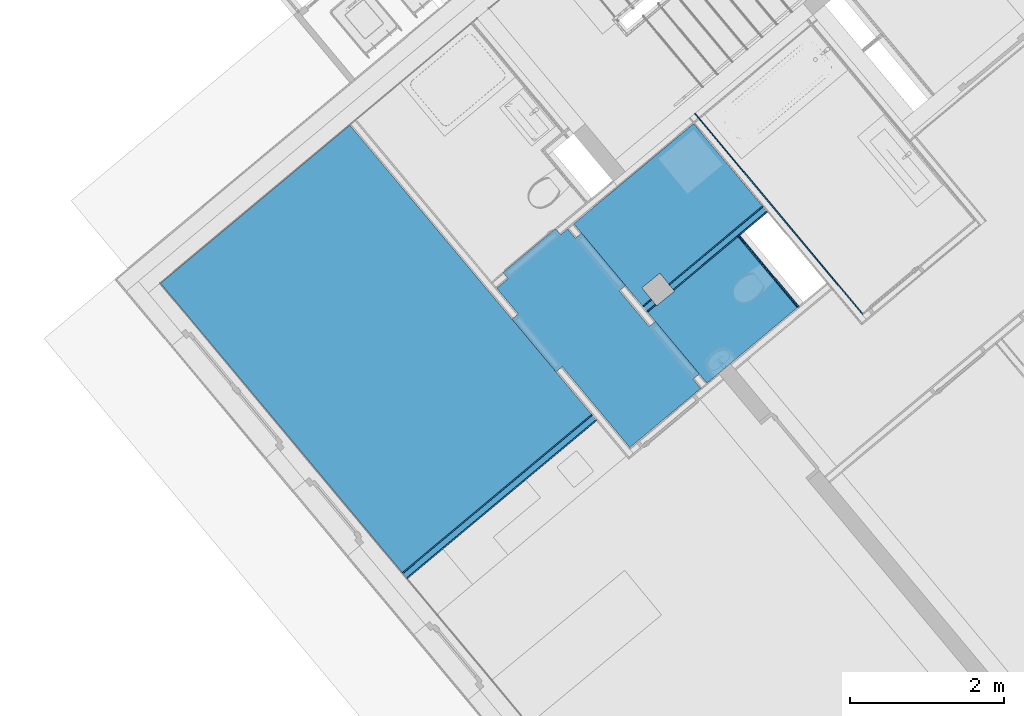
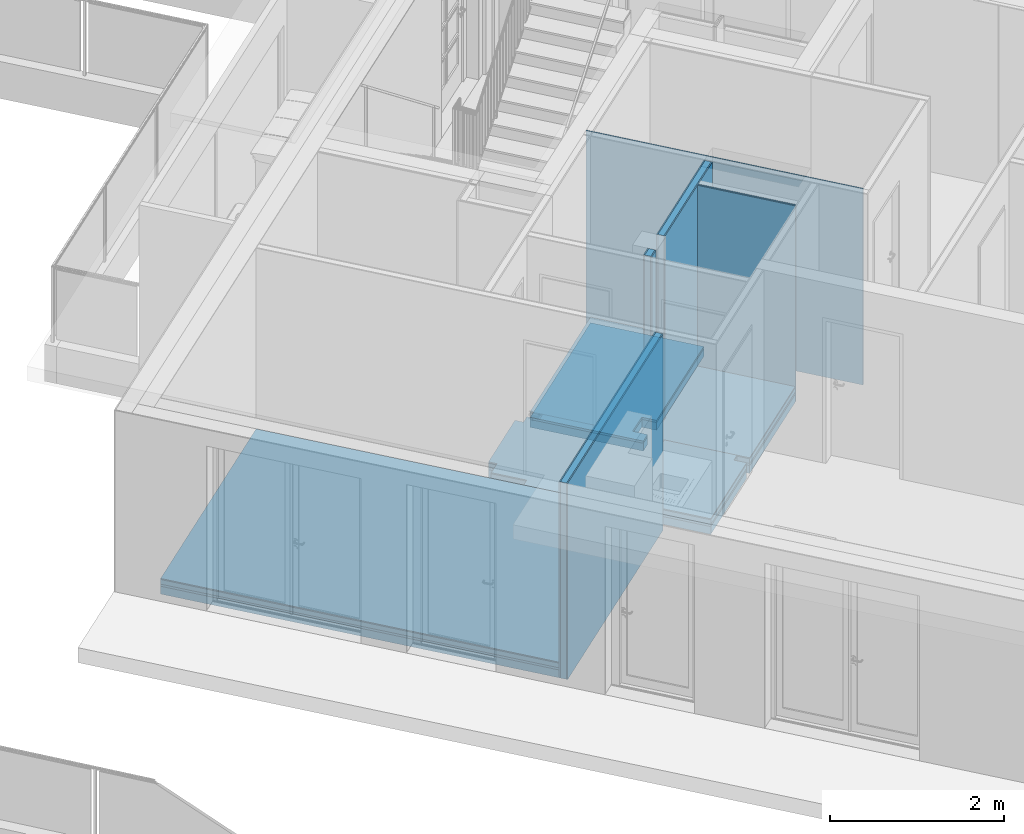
# One storey, part 29 of 67: 25 building element parts, 8 elements without a shape of their own.
"""IFC4 building model written with IfcOpenShell, lengths in metres."""

from ifc_helpers import new_model, entity, si_unit, converted_unit, derived_unit, direction, frame, origin_with_axes, place, context, subcontext, project, spatial, polygons, material, type_object, element, aggregate, save


model = new_model("IFC4")

# Units and contexts
model_context = context("Model", 3, precision=1e-05, world=origin_with_axes(), true_north=direction((0.0, 1.0)))
body_context = subcontext(model_context, "Body", "Model", "MODEL_VIEW")
ifc_project = project(units=[si_unit("LENGTHUNIT", "METRE"), si_unit("AREAUNIT", "SQUARE_METRE"), si_unit("VOLUMEUNIT", "CUBIC_METRE"), converted_unit("PLANEANGLEUNIT", "DEGREE", entity("IfcPlaneAngleMeasure", 0.0174532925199), si_unit("PLANEANGLEUNIT", "RADIAN"), dimensions=[0, 0, 0, 0, 0, 0, 0]), converted_unit("TIMEUNIT", "Year", entity("IfcTimeMeasure", 31556926.0), si_unit("TIMEUNIT", "SECOND"), dimensions=[0, 0, 1, 0, 0, 0, 0]), si_unit("MASSUNIT", "GRAM", prefix="KILO"), si_unit("THERMODYNAMICTEMPERATUREUNIT", "DEGREE_CELSIUS"), si_unit("LUMINOUSINTENSITYUNIT", "LUMEN"), si_unit("ENERGYUNIT", "JOULE", prefix="MEGA"), derived_unit("THERMALCONDUCTANCEUNIT", [(si_unit("POWERUNIT", "WATT"), 1), (si_unit("LENGTHUNIT", "METRE"), -1), (si_unit("THERMODYNAMICTEMPERATUREUNIT", "KELVIN"), -1)]), derived_unit("SPECIFICHEATCAPACITYUNIT", [(si_unit("ENERGYUNIT", "JOULE"), 1), (si_unit("MASSUNIT", "GRAM", prefix="KILO"), -1), (si_unit("THERMODYNAMICTEMPERATUREUNIT", "KELVIN"), -1)]), derived_unit("MASSDENSITYUNIT", [(si_unit("MASSUNIT", "GRAM", prefix="KILO"), 1), (si_unit("VOLUMEUNIT", "CUBIC_METRE"), -1)])], contexts=[model_context])

# Site, building, storey
site_placement = place(None, frame((-0.00153261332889, -0.00661245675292, 0.0), z_axis=(0.0, 0.0, 1.0), x_axis=(1.0, 0.0, 0.0)))
site = spatial("IfcSite", under=ifc_project, at=site_placement, Name="Site", CompositionType="ELEMENT")
building_placement = place(site_placement, origin_with_axes())
building = spatial("IfcBuilding", under=site, at=building_placement, Name="Building", CompositionType="ELEMENT")
storey_placement = place(building_placement, frame((0.0, 0.0, -0.22), z_axis=(0.0, 0.0, 1.0), x_axis=(1.0, 0.0, 0.0)))
storey = spatial("IfcBuildingStorey", under=building, at=storey_placement, Name="EG", CompositionType="ELEMENT", Elevation=-0.22)

# Wall, building element parts
wall_type_1 = type_object("IfcWallType", Name="IW LB 01 Leichtbautrennwand einfach 10,5 cm 105", PredefinedType="NOTDEFINED")
wall_1_placement = place(storey_placement, frame((-2.49988703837, 17.264591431, 0.0), z_axis=(0.0, 0.0, 1.0), x_axis=(-0.767365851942, -0.641209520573, 0.0)))
wall_1 = element("IfcWall", 1, at=wall_1_placement, inside=storey, type_object=wall_type_1, Name="Wand-012", PredefinedType="NOTDEFINED")
ifc_material_1 = material(Name="Gipskarton")
building_element_part_1_placement = place(wall_1_placement, origin_with_axes())
building_element_part_1 = element("IfcBuildingElementPart", 2, at=building_element_part_1_placement, material=ifc_material_1, Name="Gipskarton", PredefinedType="NOTDEFINED", context=body_context, shape_type="Tessellation", body=[
    polygons([(0.0, 0.09, 2.76), (0.0, 0.105, 2.76), (0.0, 0.105, 0.0), (0.0, 0.09, 0.0), (3.20025354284, 0.105, 2.76), (3.20025354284, 0.09, 2.76), (3.20025354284, 0.105, 0.0), (3.20025354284, 0.09, 0.0)], [[[1, 2, 3, 4]], [[5, 2, 1, 6]], [[2, 5, 7, 3]], [[3, 7, 8, 4]], [[6, 1, 4, 8]], [[5, 6, 8, 7]]], closed=True),
])
ifc_material_2 = material(Name="Mineralwolle weich")
building_element_part_2_placement = place(wall_1_placement, origin_with_axes())
building_element_part_2 = element("IfcBuildingElementPart", 3, at=building_element_part_2_placement, material=ifc_material_2, Name="Mineralwolle weich", PredefinedType="NOTDEFINED", context=body_context, shape_type="Tessellation", body=[
    polygons([(0.0, 0.015, 2.76), (0.0, 0.09, 2.76), (0.0, 0.09, 0.0), (0.0, 0.015, 0.0), (3.20025354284, 0.09, 2.76), (3.20025354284, 0.015, 2.76), (3.20025354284, 0.09, 0.0), (3.20025354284, 0.015, 0.0)], [[[1, 2, 3, 4]], [[5, 2, 1, 6]], [[2, 5, 7, 3]], [[3, 7, 8, 4]], [[6, 1, 4, 8]], [[5, 6, 8, 7]]], closed=True),
])
building_element_part_3_placement = place(wall_1_placement, origin_with_axes())
building_element_part_3 = element("IfcBuildingElementPart", 4, at=building_element_part_3_placement, material=ifc_material_1, Name="Gipskarton", PredefinedType="NOTDEFINED", context=body_context, shape_type="Tessellation", body=[
    polygons([(0.0, 0.0, 2.76), (0.0, 0.015, 2.76), (0.0, 0.015, 0.0), (0.0, 0.0, 0.0), (3.20025354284, 0.015, 2.76), (3.20025354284, 0.0, 2.76), (3.20025354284, 0.015, 0.0), (3.20025354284, 0.0, 0.0)], [[[1, 2, 3, 4]], [[5, 2, 1, 6]], [[2, 5, 7, 3]], [[3, 7, 8, 4]], [[6, 1, 4, 8]], [[5, 6, 8, 7]]], closed=True),
])
aggregate(wall_1, [building_element_part_1, building_element_part_2, building_element_part_3])

wall_2_placement = place(storey_placement, frame((-0.283908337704, 19.9697246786, 0.0), z_axis=(0.0, 0.0, 1.0), x_axis=(-0.76736585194, -0.641209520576, 0.0)))
wall_2 = element("IfcWall", 5, at=wall_2_placement, inside=storey, type_object=wall_type_1, Name="Wand-012", PredefinedType="NOTDEFINED")
building_element_part_4_placement = place(wall_2_placement, origin_with_axes())
building_element_part_4 = element("IfcBuildingElementPart", 6, at=building_element_part_4_placement, material=ifc_material_1, Name="Gipskarton", PredefinedType="NOTDEFINED", context=body_context, shape_type="Tessellation", body=[
    polygons([(1.88476244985, 0.105, 0.0), (1.88476244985, 0.105, 2.76), (2.02595275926, 0.105, 2.76), (2.02595275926, 0.105, 0.0), (1.88453826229, 0.09, 2.76), (1.88453826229, 0.09, 0.0), (2.02595275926, 0.09, 2.76), (2.02595275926, 0.09, 0.0)], [[[1, 2, 3, 4]], [[5, 2, 1, 6]], [[2, 5, 7, 3]], [[4, 3, 7, 8]], [[6, 1, 4, 8]], [[5, 6, 8, 7]]], closed=True),
    polygons([(1.58450475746, 0.09, 2.76), (1.58472894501, 0.105, 2.76), (0.39526751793, 0.105, 2.76), (0.0, 0.105, 2.76), (0.0, 0.09, 2.76), (1.58472894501, 0.105, 0.0), (1.58450475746, 0.09, 0.0), (0.0, 0.105, 0.0), (0.0, 0.09, 0.0)], [[[1, 2, 3, 4, 5]], [[6, 2, 1, 7]], [[2, 6, 8, 4, 3]], [[9, 5, 4, 8]], [[7, 1, 5, 9]], [[6, 7, 9, 8]]], closed=True),
])
building_element_part_5_placement = place(wall_2_placement, origin_with_axes())
building_element_part_5 = element("IfcBuildingElementPart", 7, at=building_element_part_5_placement, material=ifc_material_2, Name="Mineralwolle weich", PredefinedType="NOTDEFINED", context=body_context, shape_type="Tessellation", body=[
    polygons([(1.88453826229, 0.09, 0.0), (1.88453826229, 0.09, 2.76), (2.02595275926, 0.09, 2.76), (2.02595275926, 0.09, 0.0), (1.8834173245, 0.015, 2.76), (1.8834173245, 0.015, 0.0), (2.02595275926, 0.015, 2.76), (2.02595275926, 0.015, 0.0)], [[[1, 2, 3, 4]], [[5, 2, 1, 6]], [[2, 5, 7, 3]], [[4, 3, 7, 8]], [[6, 1, 4, 8]], [[5, 6, 8, 7]]], closed=True),
    polygons([(1.58338381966, 0.015, 2.76), (1.58450475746, 0.09, 2.76), (0.0, 0.09, 2.76), (0.0, 0.015, 2.76), (1.58450475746, 0.09, 0.0), (1.58338381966, 0.015, 0.0), (0.0, 0.09, 0.0), (0.0, 0.015, 0.0)], [[[1, 2, 3, 4]], [[5, 2, 1, 6]], [[2, 5, 7, 3]], [[8, 4, 3, 7]], [[6, 1, 4, 8]], [[5, 6, 8, 7]]], closed=True),
])
building_element_part_6_placement = place(wall_2_placement, origin_with_axes())
building_element_part_6 = element("IfcBuildingElementPart", 8, at=building_element_part_6_placement, material=ifc_material_1, Name="Gipskarton", PredefinedType="NOTDEFINED", context=body_context, shape_type="Tessellation", body=[
    polygons([(1.8834173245, 0.015, 0.0), (1.8834173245, 0.015, 2.76), (2.02595275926, 0.015, 2.76), (2.02595275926, 0.015, 0.0), (1.88319313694, 0.0, 2.76), (1.88319313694, 0.0, 0.0), (2.02595275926, 0.0, 2.76), (2.02595275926, 0.0, 0.0)], [[[1, 2, 3, 4]], [[5, 2, 1, 6]], [[2, 5, 7, 3]], [[4, 3, 7, 8]], [[6, 1, 4, 8]], [[5, 6, 8, 7]]], closed=True),
    polygons([(1.58315963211, 0.0, 2.76), (1.58338381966, 0.015, 2.76), (0.0, 0.015, 2.76), (0.0, 0.0, 2.76), (1.58338381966, 0.015, 0.0), (1.58315963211, 0.0, 0.0), (0.0, 0.015, 0.0), (0.0, 0.0, 0.0)], [[[1, 2, 3, 4]], [[5, 2, 1, 6]], [[2, 5, 7, 3]], [[8, 4, 3, 7]], [[6, 1, 4, 8]], [[5, 6, 8, 7]]], closed=True),
])
aggregate(wall_2, [building_element_part_4, building_element_part_5, building_element_part_6])

# Wall, building element part
wall_3_placement = place(storey_placement, frame((-1.23301762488, 21.1055687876, 0.0), z_axis=(0.0, 0.0, 1.0), x_axis=(0.6412095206, -0.767365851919, 0.0)))
wall_3 = element("IfcWall", 9, at=wall_3_placement, inside=storey, type_object=wall_type_1, Name="Wand-012", PredefinedType="NOTDEFINED")
building_element_part_7_placement = place(wall_3_placement, origin_with_axes())
building_element_part_7 = element("IfcBuildingElementPart", 10, at=building_element_part_7_placement, material=ifc_material_1, Name="Gipskarton", PredefinedType="NOTDEFINED", context=body_context, shape_type="Tessellation", body=[
    polygons([(0.0, 0.105, 2.76), (3.39960026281, 0.105, 2.76), (3.39960026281, 0.105, 0.0), (0.0, 0.105, 0.0), (0.0, 0.09, 2.76), (3.39960026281, 0.09, 2.76), (3.39960026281, 0.09, 0.0), (0.0, 0.09, 0.0)], [[[1, 2, 3, 4]], [[2, 1, 5, 6]], [[2, 6, 7, 3]], [[3, 7, 8, 4]], [[5, 1, 4, 8]], [[5, 8, 7, 6]]], closed=True),
])
aggregate(wall_3, [building_element_part_7])

# Wall, building element parts
wall_type_2 = type_object("IfcWallType", Name="LB 10,5 cm doppelte Vorsatzschale Bad 105", PredefinedType="NOTDEFINED")
wall_4_placement = place(storey_placement, frame((-0.587223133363, 19.7162753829, 0.0), z_axis=(0.0, 0.0, 1.0), x_axis=(0.64120952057, -0.767365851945, 0.0)))
wall_4 = element("IfcWall", 11, at=wall_4_placement, inside=storey, type_object=wall_type_2, Name="Wand-004", PredefinedType="NOTDEFINED")
building_element_part_8_placement = place(wall_4_placement, origin_with_axes())
building_element_part_8 = element("IfcBuildingElementPart", 12, at=building_element_part_8_placement, material=ifc_material_1, Name="Gipskarton", PredefinedType="NOTDEFINED", context=body_context, shape_type="Tessellation", body=[
    polygons([(0.105000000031, -0.075, 2.76), (1.30487896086, -0.075, 2.76), (1.30487896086, -0.075, 0.0), (0.105000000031, -0.075, 0.0), (1.30487896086, -0.09, 2.76), (0.105000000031, -0.09, 2.76), (1.30487896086, -0.09, 0.0), (0.105000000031, -0.09, 0.0)], [[[1, 2, 3, 4]], [[5, 2, 1, 6]], [[2, 5, 7, 3]], [[3, 7, 8, 4]], [[6, 1, 4, 8]], [[5, 6, 8, 7]]], closed=True),
])
building_element_part_9_placement = place(wall_4_placement, origin_with_axes())
building_element_part_9 = element("IfcBuildingElementPart", 13, at=building_element_part_9_placement, material=ifc_material_1, Name="Gipskarton", PredefinedType="NOTDEFINED", context=body_context, shape_type="Tessellation", body=[
    polygons([(0.105000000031, -0.09, 2.76), (1.30487896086, -0.09, 2.76), (1.30487896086, -0.09, 0.0), (0.105000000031, -0.09, 0.0), (1.30487896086, -0.105, 2.76), (0.105000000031, -0.105, 2.76), (1.30487896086, -0.105, 0.0), (0.105000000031, -0.105, 0.0)], [[[1, 2, 3, 4]], [[5, 2, 1, 6]], [[2, 5, 7, 3]], [[3, 7, 8, 4]], [[6, 1, 4, 8]], [[5, 6, 8, 7]]], closed=True),
])
aggregate(wall_4, [building_element_part_8, building_element_part_9])

# Covering, building element parts
covering_type_1 = type_object("IfcCoveringType", Name="DE 01 Decke Wohnung/Wohnung Parkett 220", PredefinedType="NOTDEFINED")
covering_1_placement = place(storey_placement, frame((-8.09147272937, 18.965343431, 0.22), z_axis=(0.0, 0.0, 1.0), x_axis=(1.0, 0.0, 0.0)))
covering_1 = element("IfcCovering", 14, at=covering_1_placement, inside=storey, type_object=covering_type_1, Name="Decke-009", PredefinedType="NOTDEFINED")
ifc_material_3 = material(Name="Parkett")
building_element_part_10_placement = place(covering_1_placement, origin_with_axes())
building_element_part_10 = element("IfcBuildingElementPart", 15, at=building_element_part_10_placement, material=ifc_material_3, Name="Parkett", PredefinedType="NOTDEFINED", context=body_context, shape_type="Tessellation", body=[
    polygons([(0.0, 0.0, -0.015), (3.13582040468, -3.75278504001, -0.015), (3.13582040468, -3.75278504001, 0.0), (0.0, 0.0, 0.0), (2.45576528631, 2.05203303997, -0.015), (5.591585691, -1.70075200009, -0.015), (5.591585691, -1.70075200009, 0.0), (2.45576528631, 2.05203303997, 0.0)], [[[1, 2, 3, 4]], [[2, 1, 5, 6]], [[2, 6, 7, 3]], [[8, 4, 3, 7]], [[5, 1, 4, 8]], [[6, 5, 8, 7]]], closed=True),
])
ifc_material_4 = material(Name="Estrich")
building_element_part_11_placement = place(covering_1_placement, origin_with_axes())
building_element_part_11 = element("IfcBuildingElementPart", 16, at=building_element_part_11_placement, material=ifc_material_4, Name="Estrich", PredefinedType="NOTDEFINED", context=body_context, shape_type="Tessellation", body=[
    polygons([(0.0, 0.0, -0.08), (3.13582040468, -3.75278504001, -0.08), (3.13582040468, -3.75278504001, -0.015), (0.0, 0.0, -0.015), (2.45576528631, 2.05203303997, -0.08), (5.591585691, -1.70075200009, -0.08), (5.591585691, -1.70075200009, -0.015), (2.45576528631, 2.05203303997, -0.015)], [[[1, 2, 3, 4]], [[2, 1, 5, 6]], [[2, 6, 7, 3]], [[8, 4, 3, 7]], [[5, 1, 4, 8]], [[6, 5, 8, 7]]], closed=True),
])
ifc_material_5 = material(Name="Trittschalldämmung")
building_element_part_12_placement = place(covering_1_placement, origin_with_axes())
building_element_part_12 = element("IfcBuildingElementPart", 17, at=building_element_part_12_placement, material=ifc_material_5, Name="Trittschalldämmung", PredefinedType="NOTDEFINED", context=body_context, shape_type="Tessellation", body=[
    polygons([(0.0, 0.0, -0.11), (3.13582040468, -3.75278504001, -0.11), (3.13582040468, -3.75278504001, -0.08), (0.0, 0.0, -0.08), (2.45576528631, 2.05203303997, -0.11), (5.591585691, -1.70075200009, -0.11), (5.591585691, -1.70075200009, -0.08), (2.45576528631, 2.05203303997, -0.08)], [[[1, 2, 3, 4]], [[2, 1, 5, 6]], [[2, 6, 7, 3]], [[8, 4, 3, 7]], [[5, 1, 4, 8]], [[6, 5, 8, 7]]], closed=True),
])
ifc_material_6 = material(Name="Schüttung")
building_element_part_13_placement = place(covering_1_placement, origin_with_axes())
building_element_part_13 = element("IfcBuildingElementPart", 18, at=building_element_part_13_placement, material=ifc_material_6, Name="Schüttung", PredefinedType="NOTDEFINED", context=body_context, shape_type="Tessellation", body=[
    polygons([(0.0, 0.0, -0.11), (0.0, 0.0, -0.22), (3.13582040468, -3.75278504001, -0.22), (3.13582040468, -3.75278504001, -0.11), (2.45576528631, 2.05203303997, -0.11), (2.45576528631, 2.05203303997, -0.22), (5.591585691, -1.70075200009, -0.22), (5.591585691, -1.70075200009, -0.11)], [[[1, 2, 3, 4]], [[5, 6, 2, 1]], [[3, 2, 6, 7]], [[4, 3, 7, 8]], [[5, 1, 4, 8]], [[8, 7, 6, 5]]], closed=True),
])
aggregate(covering_1, [building_element_part_10, building_element_part_11, building_element_part_12, building_element_part_13])

covering_type_2 = type_object("IfcCoveringType", Name="DE 01 Decke Wohnung/Wohnung Fließen 220", PredefinedType="NOTDEFINED")
covering_2_placement = place(storey_placement, frame((-2.72972930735, 19.7371746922, 0.22), z_axis=(0.0, 0.0, 1.0), x_axis=(1.0, 0.0, 0.0)))
covering_2 = element("IfcCovering", 19, at=covering_2_placement, inside=storey, type_object=covering_type_2, Name="Decke-003", PredefinedType="NOTDEFINED")
ifc_material_7 = material(Name="Fliesen")
building_element_part_14_placement = place(covering_2_placement, origin_with_axes())
building_element_part_14 = element("IfcBuildingElementPart", 20, at=building_element_part_14_placement, material=ifc_material_7, Name="Fliesen", PredefinedType="NOTDEFINED", context=body_context, shape_type="Tessellation", body=[
    polygons([(0.89117400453, -1.06651021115, -0.015), (0.89117400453, -1.06651021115, 0.0), (0.0, 0.0, 0.0), (0.0, 0.0, -0.015), (1.00072286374, -0.974971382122, -0.015), (1.00072286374, -0.974971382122, 0.0), (0.883663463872, -0.830548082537, 0.0), (1.11672221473, -0.641647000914, 0.0), (1.2309583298, -0.782587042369, 0.0), (2.44582096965, 0.232549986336, 0.0), (1.55442053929, 1.29933116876, 0.0), (1.55442053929, 1.29933116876, -0.015), (2.44582096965, 0.232549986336, -0.015), (1.2309583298, -0.782587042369, -0.015), (1.11672221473, -0.641647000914, -0.015), (0.883663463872, -0.830548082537, -0.015)], [[[1, 2, 3, 4]], [[5, 6, 2, 1]], [[3, 2, 6, 7, 8, 9, 10, 11]], [[4, 3, 11, 12]], [[4, 12, 13, 14, 15, 16, 5, 1]], [[16, 7, 6, 5]], [[15, 8, 7, 16]], [[14, 9, 8, 15]], [[13, 10, 9, 14]], [[12, 11, 10, 13]]], closed=True),
])
building_element_part_15_placement = place(covering_2_placement, origin_with_axes())
building_element_part_15 = element("IfcBuildingElementPart", 21, at=building_element_part_15_placement, material=ifc_material_4, Name="Estrich", PredefinedType="NOTDEFINED", context=body_context, shape_type="Tessellation", body=[
    polygons([(0.89117400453, -1.06651021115, -0.08), (0.89117400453, -1.06651021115, -0.015), (0.0, 0.0, -0.015), (0.0, 0.0, -0.08), (1.00072286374, -0.974971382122, -0.08), (1.00072286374, -0.974971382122, -0.015), (0.883663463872, -0.830548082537, -0.015), (1.11672221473, -0.641647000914, -0.015), (1.2309583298, -0.782587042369, -0.015), (2.44582096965, 0.232549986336, -0.015), (1.55442053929, 1.29933116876, -0.015), (1.55442053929, 1.29933116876, -0.08), (2.44582096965, 0.232549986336, -0.08), (1.2309583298, -0.782587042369, -0.08), (1.11672221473, -0.641647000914, -0.08), (0.883663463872, -0.830548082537, -0.08)], [[[1, 2, 3, 4]], [[5, 6, 2, 1]], [[3, 2, 6, 7, 8, 9, 10, 11]], [[4, 3, 11, 12]], [[4, 12, 13, 14, 15, 16, 5, 1]], [[16, 7, 6, 5]], [[15, 8, 7, 16]], [[14, 9, 8, 15]], [[13, 10, 9, 14]], [[12, 11, 10, 13]]], closed=True),
])
building_element_part_16_placement = place(covering_2_placement, origin_with_axes())
building_element_part_16 = element("IfcBuildingElementPart", 22, at=building_element_part_16_placement, material=ifc_material_5, Name="Trittschalldämmung", PredefinedType="NOTDEFINED", context=body_context, shape_type="Tessellation", body=[
    polygons([(0.89117400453, -1.06651021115, -0.11), (0.89117400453, -1.06651021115, -0.08), (0.0, 0.0, -0.08), (0.0, 0.0, -0.11), (1.00072286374, -0.974971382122, -0.11), (1.00072286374, -0.974971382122, -0.08), (0.883663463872, -0.830548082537, -0.08), (1.11672221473, -0.641647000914, -0.08), (1.2309583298, -0.782587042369, -0.08), (2.44582096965, 0.232549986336, -0.08), (1.55442053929, 1.29933116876, -0.08), (1.55442053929, 1.29933116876, -0.11), (2.44582096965, 0.232549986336, -0.11), (1.2309583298, -0.782587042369, -0.11), (1.11672221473, -0.641647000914, -0.11), (0.883663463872, -0.830548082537, -0.11)], [[[1, 2, 3, 4]], [[5, 6, 2, 1]], [[3, 2, 6, 7, 8, 9, 10, 11]], [[4, 3, 11, 12]], [[4, 12, 13, 14, 15, 16, 5, 1]], [[16, 7, 6, 5]], [[15, 8, 7, 16]], [[14, 9, 8, 15]], [[13, 10, 9, 14]], [[12, 11, 10, 13]]], closed=True),
])
building_element_part_17_placement = place(covering_2_placement, origin_with_axes())
building_element_part_17 = element("IfcBuildingElementPart", 23, at=building_element_part_17_placement, material=ifc_material_6, Name="Schüttung", PredefinedType="NOTDEFINED", context=body_context, shape_type="Tessellation", body=[
    polygons([(0.0, 0.0, -0.22), (0.89117400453, -1.06651021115, -0.22), (0.89117400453, -1.06651021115, -0.11), (0.0, 0.0, -0.11), (1.55442053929, 1.29933116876, -0.22), (2.44582096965, 0.232549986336, -0.22), (1.2309583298, -0.782587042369, -0.22), (1.11672221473, -0.641647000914, -0.22), (0.883663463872, -0.830548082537, -0.22), (1.00072286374, -0.974971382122, -0.22), (1.00072286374, -0.974971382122, -0.11), (0.883663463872, -0.830548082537, -0.11), (1.11672221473, -0.641647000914, -0.11), (1.2309583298, -0.782587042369, -0.11), (2.44582096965, 0.232549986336, -0.11), (1.55442053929, 1.29933116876, -0.11)], [[[1, 2, 3, 4]], [[1, 5, 6, 7, 8, 9, 10, 2]], [[2, 10, 11, 3]], [[4, 3, 11, 12, 13, 14, 15, 16]], [[5, 1, 4, 16]], [[6, 5, 16, 15]], [[7, 6, 15, 14]], [[8, 7, 14, 13]], [[9, 8, 13, 12]], [[10, 9, 12, 11]]], closed=True),
])
aggregate(covering_2, [building_element_part_14, building_element_part_15, building_element_part_16, building_element_part_17])

covering_3_placement = place(storey_placement, frame((-1.77122830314, 18.5900910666, 0.22), z_axis=(0.0, 0.0, 1.0), x_axis=(1.0, 0.0, 0.0)))
covering_3 = element("IfcCovering", 24, at=covering_3_placement, inside=storey, type_object=covering_type_2, Name="Decke-004", PredefinedType="NOTDEFINED")
building_element_part_18_placement = place(covering_3_placement, origin_with_axes())
building_element_part_18 = element("IfcBuildingElementPart", 25, at=building_element_part_18_placement, material=ifc_material_7, Name="Fliesen", PredefinedType="NOTDEFINED", context=body_context, shape_type="Tessellation", body=[
    polygons([(0.769373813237, -0.920746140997, -0.015), (0.769373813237, -0.920746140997, 0.0), (0.0, 0.0, 0.0), (0.0, 0.0, -0.015), (1.94013256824, 0.0575377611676, -0.015), (1.94013256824, 0.0575377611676, 0.0), (1.170758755, 0.978283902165, 0.0), (0.338580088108, 0.282916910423, 0.0), (0.34712229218, 0.272377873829, 0.0), (0.114063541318, 0.0834767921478, 0.0), (0.108344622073, 0.0905325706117, 0.0), (0.108344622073, 0.0905325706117, -0.015), (0.114063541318, 0.0834767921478, -0.015), (0.34712229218, 0.272377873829, -0.015), (0.338580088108, 0.282916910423, -0.015), (1.170758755, 0.978283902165, -0.015)], [[[1, 2, 3, 4]], [[5, 6, 2, 1]], [[3, 2, 6, 7, 8, 9, 10, 11]], [[4, 3, 11, 12]], [[4, 12, 13, 14, 15, 16, 5, 1]], [[16, 7, 6, 5]], [[15, 8, 7, 16]], [[14, 9, 8, 15]], [[13, 10, 9, 14]], [[12, 11, 10, 13]]], closed=True),
])
building_element_part_19_placement = place(covering_3_placement, origin_with_axes())
building_element_part_19 = element("IfcBuildingElementPart", 26, at=building_element_part_19_placement, material=ifc_material_4, Name="Estrich", PredefinedType="NOTDEFINED", context=body_context, shape_type="Tessellation", body=[
    polygons([(0.769373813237, -0.920746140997, -0.08), (0.769373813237, -0.920746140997, -0.015), (0.0, 0.0, -0.015), (0.0, 0.0, -0.08), (1.94013256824, 0.0575377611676, -0.08), (1.94013256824, 0.0575377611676, -0.015), (1.170758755, 0.978283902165, -0.015), (0.338580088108, 0.282916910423, -0.015), (0.34712229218, 0.272377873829, -0.015), (0.114063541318, 0.0834767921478, -0.015), (0.108344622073, 0.0905325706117, -0.015), (0.108344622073, 0.0905325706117, -0.08), (0.114063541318, 0.0834767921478, -0.08), (0.34712229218, 0.272377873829, -0.08), (0.338580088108, 0.282916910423, -0.08), (1.170758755, 0.978283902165, -0.08)], [[[1, 2, 3, 4]], [[5, 6, 2, 1]], [[3, 2, 6, 7, 8, 9, 10, 11]], [[4, 3, 11, 12]], [[4, 12, 13, 14, 15, 16, 5, 1]], [[16, 7, 6, 5]], [[15, 8, 7, 16]], [[14, 9, 8, 15]], [[13, 10, 9, 14]], [[12, 11, 10, 13]]], closed=True),
])
building_element_part_20_placement = place(covering_3_placement, origin_with_axes())
building_element_part_20 = element("IfcBuildingElementPart", 27, at=building_element_part_20_placement, material=ifc_material_5, Name="Trittschalldämmung", PredefinedType="NOTDEFINED", context=body_context, shape_type="Tessellation", body=[
    polygons([(0.769373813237, -0.920746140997, -0.11), (0.769373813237, -0.920746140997, -0.08), (0.0, 0.0, -0.08), (0.0, 0.0, -0.11), (1.94013256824, 0.0575377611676, -0.11), (1.94013256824, 0.0575377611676, -0.08), (1.170758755, 0.978283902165, -0.08), (0.338580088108, 0.282916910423, -0.08), (0.34712229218, 0.272377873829, -0.08), (0.114063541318, 0.0834767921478, -0.08), (0.108344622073, 0.0905325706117, -0.08), (0.108344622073, 0.0905325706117, -0.11), (0.114063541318, 0.0834767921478, -0.11), (0.34712229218, 0.272377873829, -0.11), (0.338580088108, 0.282916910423, -0.11), (1.170758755, 0.978283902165, -0.11)], [[[1, 2, 3, 4]], [[5, 6, 2, 1]], [[3, 2, 6, 7, 8, 9, 10, 11]], [[4, 3, 11, 12]], [[4, 12, 13, 14, 15, 16, 5, 1]], [[16, 7, 6, 5]], [[15, 8, 7, 16]], [[14, 9, 8, 15]], [[13, 10, 9, 14]], [[12, 11, 10, 13]]], closed=True),
])
building_element_part_21_placement = place(covering_3_placement, origin_with_axes())
building_element_part_21 = element("IfcBuildingElementPart", 28, at=building_element_part_21_placement, material=ifc_material_6, Name="Schüttung", PredefinedType="NOTDEFINED", context=body_context, shape_type="Tessellation", body=[
    polygons([(0.0, 0.0, -0.22), (0.769373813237, -0.920746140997, -0.22), (0.769373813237, -0.920746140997, -0.11), (0.0, 0.0, -0.11), (0.108344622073, 0.0905325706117, -0.22), (0.114063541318, 0.0834767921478, -0.22), (0.34712229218, 0.272377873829, -0.22), (0.338580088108, 0.282916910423, -0.22), (1.170758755, 0.978283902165, -0.22), (1.94013256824, 0.0575377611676, -0.22), (1.94013256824, 0.0575377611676, -0.11), (1.170758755, 0.978283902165, -0.11), (0.338580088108, 0.282916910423, -0.11), (0.34712229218, 0.272377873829, -0.11), (0.114063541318, 0.0834767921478, -0.11), (0.108344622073, 0.0905325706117, -0.11)], [[[1, 2, 3, 4]], [[1, 5, 6, 7, 8, 9, 10, 2]], [[2, 10, 11, 3]], [[4, 3, 11, 12, 13, 14, 15, 16]], [[5, 1, 4, 16]], [[6, 5, 16, 15]], [[7, 6, 15, 14]], [[8, 7, 14, 13]], [[9, 8, 13, 12]], [[10, 9, 12, 11]]], closed=True),
])
aggregate(covering_3, [building_element_part_18, building_element_part_19, building_element_part_20, building_element_part_21])

covering_4_placement = place(storey_placement, frame((-3.58229735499, 19.0241226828, 0.22), z_axis=(0.0, 0.0, 1.0), x_axis=(1.0, 0.0, 0.0)))
covering_4 = element("IfcCovering", 29, at=covering_4_placement, inside=storey, type_object=covering_type_2, Name="Decke-003", PredefinedType="NOTDEFINED")
building_element_part_22_placement = place(covering_4_placement, origin_with_axes())
building_element_part_22 = element("IfcBuildingElementPart", 30, at=building_element_part_22_placement, material=ifc_material_7, Name="Fliesen", PredefinedType="NOTDEFINED", context=body_context, shape_type="Tessellation", body=[
    polygons([(0.772026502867, 0.645686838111, -0.015), (0.772026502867, 0.645686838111, 0.0), (0.871992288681, 0.526053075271, 0.0), (0.871992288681, 0.526053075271, -0.015), (0.682704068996, 0.570977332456, 0.0), (0.682704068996, 0.570977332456, -0.015), (0.6825988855, 0.57110308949, 0.0), (0.615338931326, 0.651518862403, 0.0), (-0.0673464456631, 0.0805191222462, 0.0), (-1.94673659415e-08, -1.62825521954e-08, 0.0), (1.87046381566e-05, -2.24027601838e-05, 0.0), (-0.147735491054, -0.123604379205, 0.0), (0.13108354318, -0.457280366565, 0.0), (0.0505101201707, -0.524607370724, 0.0), (0.621186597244, -1.20756298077, 0.0), (0.701760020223, -1.14023597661, 0.0), (1.57974343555, -2.1909603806, 0.0), (2.49986944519, -1.42210479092, 0.0), (2.40026170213, -1.30289938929, 0.0), (2.48083508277, -1.23557242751, 0.0), (1.91015864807, -0.552616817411, 0.0), (1.82958522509, -0.61994382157, 0.0), (1.44266872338, -0.156902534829, 0.0), (1.52324214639, -0.0895755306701, 0.0), (0.952565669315, 0.59338007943, 0.0), (0.952565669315, 0.59338007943, -0.015), (1.52324214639, -0.0895755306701, -0.015), (1.44266872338, -0.156902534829, -0.015), (1.82958522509, -0.61994382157, -0.015), (1.91015864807, -0.552616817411, -0.015), (2.48083508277, -1.23557242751, -0.015), (2.40026170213, -1.30289938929, -0.015), (2.49986944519, -1.42210479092, -0.015), (1.57974343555, -2.1909603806, -0.015), (0.701760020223, -1.14023597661, -0.015), (0.621186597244, -1.20756298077, -0.015), (0.0505101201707, -0.524607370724, -0.015), (0.13108354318, -0.457280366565, -0.015), (-0.147735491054, -0.123604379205, -0.015), (1.87046381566e-05, -2.24027601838e-05, -0.015), (-1.94673659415e-08, -1.62825521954e-08, -0.015), (-0.0673464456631, 0.0805191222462, -0.015), (0.615338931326, 0.651518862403, -0.015), (0.6825988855, 0.57110308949, -0.015)], [[[1, 2, 3, 4]], [[5, 2, 1, 6]], [[5, 7, 8, 9, 10, 11, 12, 13, 14, 15, 16, 17, 18, 19, 20, 21, 22, 23, 24, 25, 3, 2]], [[26, 4, 3, 25]], [[6, 1, 4, 26, 27, 28, 29, 30, 31, 32, 33, 34, 35, 36, 37, 38, 39, 40, 41, 42, 43, 44]], [[7, 5, 6, 44]], [[7, 44, 43, 8]], [[43, 42, 9, 8]], [[41, 10, 9, 42]], [[11, 10, 41, 40]], [[12, 11, 40, 39]], [[12, 39, 38, 13]], [[38, 37, 14, 13]], [[37, 36, 15, 14]], [[36, 35, 16, 15]], [[35, 34, 17, 16]], [[34, 33, 18, 17]], [[33, 32, 19, 18]], [[32, 31, 20, 19]], [[31, 30, 21, 20]], [[30, 29, 22, 21]], [[29, 28, 23, 22]], [[28, 27, 24, 23]], [[27, 26, 25, 24]]], closed=True),
])
building_element_part_23_placement = place(covering_4_placement, origin_with_axes())
building_element_part_23 = element("IfcBuildingElementPart", 31, at=building_element_part_23_placement, material=ifc_material_4, Name="Estrich", PredefinedType="NOTDEFINED", context=body_context, shape_type="Tessellation", body=[
    polygons([(0.772026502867, 0.645686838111, -0.08), (0.772026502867, 0.645686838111, -0.015), (0.871992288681, 0.526053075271, -0.015), (0.871992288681, 0.526053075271, -0.08), (0.682704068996, 0.570977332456, -0.015), (0.682704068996, 0.570977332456, -0.08), (0.6825988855, 0.57110308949, -0.015), (0.615338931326, 0.651518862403, -0.015), (-0.0673464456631, 0.0805191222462, -0.015), (-1.94673659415e-08, -1.62825521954e-08, -0.015), (1.87046381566e-05, -2.24027601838e-05, -0.015), (-0.147735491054, -0.123604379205, -0.015), (0.13108354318, -0.457280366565, -0.015), (0.0505101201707, -0.524607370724, -0.015), (0.621186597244, -1.20756298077, -0.015), (0.701760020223, -1.14023597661, -0.015), (1.57974343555, -2.1909603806, -0.015), (2.49986944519, -1.42210479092, -0.015), (2.40026170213, -1.30289938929, -0.015), (2.48083508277, -1.23557242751, -0.015), (1.91015864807, -0.552616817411, -0.015), (1.82958522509, -0.61994382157, -0.015), (1.44266872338, -0.156902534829, -0.015), (1.52324214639, -0.0895755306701, -0.015), (0.952565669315, 0.59338007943, -0.015), (0.952565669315, 0.59338007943, -0.08), (1.52324214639, -0.0895755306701, -0.08), (1.44266872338, -0.156902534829, -0.08), (1.82958522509, -0.61994382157, -0.08), (1.91015864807, -0.552616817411, -0.08), (2.48083508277, -1.23557242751, -0.08), (2.40026170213, -1.30289938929, -0.08), (2.49986944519, -1.42210479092, -0.08), (1.57974343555, -2.1909603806, -0.08), (0.701760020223, -1.14023597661, -0.08), (0.621186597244, -1.20756298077, -0.08), (0.0505101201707, -0.524607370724, -0.08), (0.13108354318, -0.457280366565, -0.08), (-0.147735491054, -0.123604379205, -0.08), (1.87046381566e-05, -2.24027601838e-05, -0.08), (-1.94673659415e-08, -1.62825521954e-08, -0.08), (-0.0673464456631, 0.0805191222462, -0.08), (0.615338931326, 0.651518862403, -0.08), (0.6825988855, 0.57110308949, -0.08)], [[[1, 2, 3, 4]], [[5, 2, 1, 6]], [[5, 7, 8, 9, 10, 11, 12, 13, 14, 15, 16, 17, 18, 19, 20, 21, 22, 23, 24, 25, 3, 2]], [[26, 4, 3, 25]], [[6, 1, 4, 26, 27, 28, 29, 30, 31, 32, 33, 34, 35, 36, 37, 38, 39, 40, 41, 42, 43, 44]], [[7, 5, 6, 44]], [[7, 44, 43, 8]], [[43, 42, 9, 8]], [[41, 10, 9, 42]], [[11, 10, 41, 40]], [[12, 11, 40, 39]], [[12, 39, 38, 13]], [[38, 37, 14, 13]], [[37, 36, 15, 14]], [[36, 35, 16, 15]], [[35, 34, 17, 16]], [[34, 33, 18, 17]], [[33, 32, 19, 18]], [[32, 31, 20, 19]], [[31, 30, 21, 20]], [[30, 29, 22, 21]], [[29, 28, 23, 22]], [[28, 27, 24, 23]], [[27, 26, 25, 24]]], closed=True),
])
building_element_part_24_placement = place(covering_4_placement, origin_with_axes())
building_element_part_24 = element("IfcBuildingElementPart", 32, at=building_element_part_24_placement, material=ifc_material_5, Name="Trittschalldämmung", PredefinedType="NOTDEFINED", context=body_context, shape_type="Tessellation", body=[
    polygons([(0.772026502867, 0.645686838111, -0.11), (0.772026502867, 0.645686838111, -0.08), (0.871992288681, 0.526053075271, -0.08), (0.871992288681, 0.526053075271, -0.11), (0.682704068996, 0.570977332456, -0.08), (0.682704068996, 0.570977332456, -0.11), (0.6825988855, 0.57110308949, -0.08), (0.615338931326, 0.651518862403, -0.08), (-0.0673464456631, 0.0805191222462, -0.08), (-1.94673659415e-08, -1.62825521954e-08, -0.08), (1.87046381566e-05, -2.24027601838e-05, -0.08), (-0.147735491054, -0.123604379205, -0.08), (0.13108354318, -0.457280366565, -0.08), (0.0505101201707, -0.524607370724, -0.08), (0.621186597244, -1.20756298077, -0.08), (0.701760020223, -1.14023597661, -0.08), (1.57974343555, -2.1909603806, -0.08), (2.49986944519, -1.42210479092, -0.08), (2.40026170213, -1.30289938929, -0.08), (2.48083508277, -1.23557242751, -0.08), (1.91015864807, -0.552616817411, -0.08), (1.82958522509, -0.61994382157, -0.08), (1.44266872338, -0.156902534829, -0.08), (1.52324214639, -0.0895755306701, -0.08), (0.952565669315, 0.59338007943, -0.08), (0.952565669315, 0.59338007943, -0.11), (1.52324214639, -0.0895755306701, -0.11), (1.44266872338, -0.156902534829, -0.11), (1.82958522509, -0.61994382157, -0.11), (1.91015864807, -0.552616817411, -0.11), (2.48083508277, -1.23557242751, -0.11), (2.40026170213, -1.30289938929, -0.11), (2.49986944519, -1.42210479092, -0.11), (1.57974343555, -2.1909603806, -0.11), (0.701760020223, -1.14023597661, -0.11), (0.621186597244, -1.20756298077, -0.11), (0.0505101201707, -0.524607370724, -0.11), (0.13108354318, -0.457280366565, -0.11), (-0.147735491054, -0.123604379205, -0.11), (1.87046381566e-05, -2.24027601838e-05, -0.11), (-1.94673659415e-08, -1.62825521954e-08, -0.11), (-0.0673464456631, 0.0805191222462, -0.11), (0.615338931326, 0.651518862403, -0.11), (0.6825988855, 0.57110308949, -0.11)], [[[1, 2, 3, 4]], [[5, 2, 1, 6]], [[5, 7, 8, 9, 10, 11, 12, 13, 14, 15, 16, 17, 18, 19, 20, 21, 22, 23, 24, 25, 3, 2]], [[26, 4, 3, 25]], [[6, 1, 4, 26, 27, 28, 29, 30, 31, 32, 33, 34, 35, 36, 37, 38, 39, 40, 41, 42, 43, 44]], [[7, 5, 6, 44]], [[7, 44, 43, 8]], [[43, 42, 9, 8]], [[41, 10, 9, 42]], [[11, 10, 41, 40]], [[12, 11, 40, 39]], [[12, 39, 38, 13]], [[38, 37, 14, 13]], [[37, 36, 15, 14]], [[36, 35, 16, 15]], [[35, 34, 17, 16]], [[34, 33, 18, 17]], [[33, 32, 19, 18]], [[32, 31, 20, 19]], [[31, 30, 21, 20]], [[30, 29, 22, 21]], [[29, 28, 23, 22]], [[28, 27, 24, 23]], [[27, 26, 25, 24]]], closed=True),
])
building_element_part_25_placement = place(covering_4_placement, origin_with_axes())
building_element_part_25 = element("IfcBuildingElementPart", 33, at=building_element_part_25_placement, material=ifc_material_6, Name="Schüttung", PredefinedType="NOTDEFINED", context=body_context, shape_type="Tessellation", body=[
    polygons([(0.772026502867, 0.645686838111, -0.22), (0.772026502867, 0.645686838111, -0.11), (0.871992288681, 0.526053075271, -0.11), (0.871992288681, 0.526053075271, -0.22), (0.682704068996, 0.570977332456, -0.11), (0.682704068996, 0.570977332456, -0.22), (0.6825988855, 0.57110308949, -0.11), (0.615338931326, 0.651518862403, -0.11), (-0.0673464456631, 0.0805191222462, -0.11), (-1.94673659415e-08, -1.62825521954e-08, -0.11), (1.87046381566e-05, -2.24027601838e-05, -0.11), (-0.147735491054, -0.123604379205, -0.11), (0.13108354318, -0.457280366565, -0.11), (0.0505101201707, -0.524607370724, -0.11), (0.621186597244, -1.20756298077, -0.11), (0.701760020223, -1.14023597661, -0.11), (1.57974343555, -2.1909603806, -0.11), (2.49986944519, -1.42210479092, -0.11), (2.40026170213, -1.30289938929, -0.11), (2.48083508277, -1.23557242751, -0.11), (1.91015864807, -0.552616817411, -0.11), (1.82958522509, -0.61994382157, -0.11), (1.44266872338, -0.156902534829, -0.11), (1.52324214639, -0.0895755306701, -0.11), (0.952565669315, 0.59338007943, -0.11), (0.952565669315, 0.59338007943, -0.22), (1.52324214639, -0.0895755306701, -0.22), (1.44266872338, -0.156902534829, -0.22), (1.82958522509, -0.61994382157, -0.22), (1.91015864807, -0.552616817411, -0.22), (2.48083508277, -1.23557242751, -0.22), (2.40026170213, -1.30289938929, -0.22), (2.49986944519, -1.42210479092, -0.22), (1.57974343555, -2.1909603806, -0.22), (0.701760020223, -1.14023597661, -0.22), (0.621186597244, -1.20756298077, -0.22), (0.0505101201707, -0.524607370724, -0.22), (0.13108354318, -0.457280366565, -0.22), (-0.147735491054, -0.123604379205, -0.22), (1.87046381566e-05, -2.24027601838e-05, -0.22), (-1.94673646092e-08, -1.62825521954e-08, -0.22), (-0.0673464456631, 0.0805191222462, -0.22), (0.615338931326, 0.651518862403, -0.22), (0.682598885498, 0.571103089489, -0.22)], [[[1, 2, 3, 4]], [[5, 2, 1, 6]], [[5, 7, 8, 9, 10, 11, 12, 13, 14, 15, 16, 17, 18, 19, 20, 21, 22, 23, 24, 25, 3, 2]], [[25, 26, 4, 3]], [[6, 1, 4, 26, 27, 28, 29, 30, 31, 32, 33, 34, 35, 36, 37, 38, 39, 40, 41, 42, 43, 44]], [[7, 5, 6, 44]], [[7, 44, 43, 8]], [[8, 43, 42, 9]], [[41, 10, 9, 42]], [[11, 10, 41, 40]], [[12, 11, 40, 39]], [[12, 39, 38, 13]], [[13, 38, 37, 14]], [[14, 37, 36, 15]], [[15, 36, 35, 16]], [[16, 35, 34, 17]], [[17, 34, 33, 18]], [[18, 33, 32, 19]], [[19, 32, 31, 20]], [[20, 31, 30, 21]], [[21, 30, 29, 22]], [[22, 29, 28, 23]], [[23, 28, 27, 24]], [[24, 27, 26, 25]]], closed=True),
])
aggregate(covering_4, [building_element_part_22, building_element_part_23, building_element_part_24, building_element_part_25])

save(model, "model.ifc")
